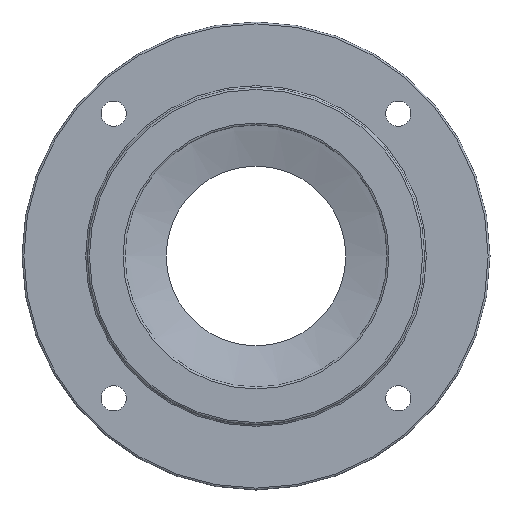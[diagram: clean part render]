
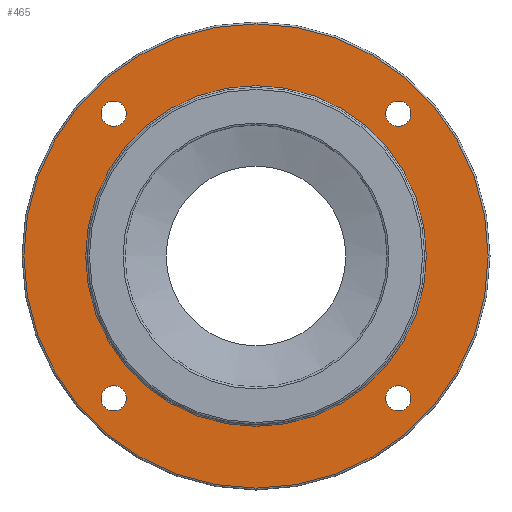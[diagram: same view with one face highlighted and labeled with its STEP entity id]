
A CAD part, front view. The second image highlights one B-rep face of the part: STEP entity #465.
In plain terms, the highlighted planar face has unit normal (0, -1, 0).
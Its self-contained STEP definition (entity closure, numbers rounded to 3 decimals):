
#105=CARTESIAN_POINT('',(-69.264,-26.5,76.014));
#106=VERTEX_POINT('',#105);
#107=CARTESIAN_POINT('',(-76.014,-26.5,76.014));
#108=DIRECTION('',(0.0,1.0,0.0));
#109=DIRECTION('',(1.0,0.0,0.0));
#110=AXIS2_PLACEMENT_3D('',#107,#108,#109);
#111=CIRCLE('',#110,6.75);
#112=EDGE_CURVE('',#106,#106,#111,.T.);
#154=CARTESIAN_POINT('',(-69.264,-26.5,-76.014));
#155=VERTEX_POINT('',#154);
#156=CARTESIAN_POINT('',(-76.014,-26.5,-76.014));
#157=DIRECTION('',(0.0,1.0,0.0));
#158=DIRECTION('',(1.0,0.0,0.0));
#159=AXIS2_PLACEMENT_3D('',#156,#157,#158);
#160=CIRCLE('',#159,6.75);
#161=EDGE_CURVE('',#155,#155,#160,.T.);
#203=CARTESIAN_POINT('',(82.764,-26.5,-76.014));
#204=VERTEX_POINT('',#203);
#205=CARTESIAN_POINT('',(76.014,-26.5,-76.014));
#206=DIRECTION('',(0.0,1.0,0.0));
#207=DIRECTION('',(1.0,0.0,0.0));
#208=AXIS2_PLACEMENT_3D('',#205,#206,#207);
#209=CIRCLE('',#208,6.75);
#210=EDGE_CURVE('',#204,#204,#209,.T.);
#252=CARTESIAN_POINT('',(82.764,-26.5,76.014));
#253=VERTEX_POINT('',#252);
#254=CARTESIAN_POINT('',(76.014,-26.5,76.014));
#255=DIRECTION('',(0.0,1.0,0.0));
#256=DIRECTION('',(1.0,0.0,0.0));
#257=AXIS2_PLACEMENT_3D('',#254,#255,#256);
#258=CIRCLE('',#257,6.75);
#259=EDGE_CURVE('',#253,#253,#258,.T.);
#419=CARTESIAN_POINT('',(-124.0,-26.5,0.0));
#420=VERTEX_POINT('',#419);
#421=CARTESIAN_POINT('',(0.0,-26.5,0.0));
#422=DIRECTION('',(0.0,1.0,0.0));
#423=DIRECTION('',(1.0,0.0,0.0));
#424=AXIS2_PLACEMENT_3D('',#421,#422,#423);
#425=CIRCLE('',#424,124.0);
#426=EDGE_CURVE('',#420,#420,#425,.T.);
#434=CARTESIAN_POINT('',(-107.5,-26.5,0.));
#435=DIRECTION('',(0.0,-1.0,0.0));
#436=DIRECTION('',(0.0,0.0,-1.0));
#437=AXIS2_PLACEMENT_3D('',#434,#435,#436);
#438=PLANE('',#437);
#439=ORIENTED_EDGE('',*,*,#426,.F.);
#440=EDGE_LOOP('',(#439));
#441=FACE_OUTER_BOUND('',#440,.T.);
#442=ORIENTED_EDGE('',*,*,#112,.T.);
#443=EDGE_LOOP('',(#442));
#444=FACE_BOUND('',#443,.T.);
#445=ORIENTED_EDGE('',*,*,#161,.T.);
#446=EDGE_LOOP('',(#445));
#447=FACE_BOUND('',#446,.T.);
#448=ORIENTED_EDGE('',*,*,#210,.T.);
#449=EDGE_LOOP('',(#448));
#450=FACE_BOUND('',#449,.T.);
#451=ORIENTED_EDGE('',*,*,#259,.T.);
#452=EDGE_LOOP('',(#451));
#453=FACE_BOUND('',#452,.T.);
#454=CARTESIAN_POINT('',(-91.0,-26.5,0.));
#455=VERTEX_POINT('',#454);
#456=CARTESIAN_POINT('',(0.0,-26.5,0.0));
#457=DIRECTION('',(0.0,-1.0,0.0));
#458=DIRECTION('',(1.0,0.0,0.0));
#459=AXIS2_PLACEMENT_3D('',#456,#457,#458);
#460=CIRCLE('',#459,91.0);
#461=EDGE_CURVE('',#455,#455,#460,.T.);
#462=ORIENTED_EDGE('',*,*,#461,.F.);
#463=EDGE_LOOP('',(#462));
#464=FACE_BOUND('',#463,.T.);
#465=ADVANCED_FACE('',(#441,#444,#447,#450,#453,#464),#438,.T.);
